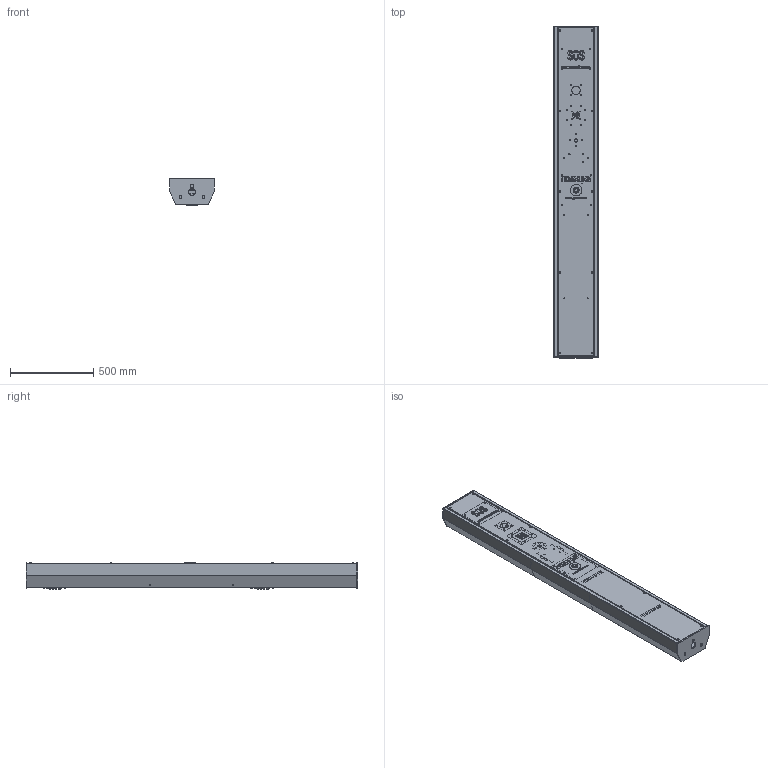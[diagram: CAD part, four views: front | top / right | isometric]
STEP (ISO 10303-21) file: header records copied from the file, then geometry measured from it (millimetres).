
FILE_DESCRIPTION (( 'STEP AP214' ), '1' );
FILE_NAME ('Êîëîííà FSP-WP07-IP.STEP', '2024-11-24T11:12:41', ( '' ), ( '' ), 'SwSTEP 2.0', 'SolidWorks 2024', '' );
FILE_SCHEMA (( 'AUTOMOTIVE_DESIGN' ));
Length unit declared in the file: millimetre
Products named in the file (40): _____ _____________ __________ Sip phone V5.0.STEP; ________ 1.STEP; ______ _______ (_____)_______ _______ - _4.STEP; ______ SVN-200SL20HPOE.STEP; _________ _________.STEP; _______.STEP; _________ ______.STEP; MC_DIN-_____ 280 mm.STEP; Колонна FSP-WP07-IP.STEP; _______ _ 218_1983.STEP; ________ ______.STEP; socket button head screw_iso_ISO 7380 - M6 x 16 - 16N; ______ ______________ GQ30-11E-B-12V 30 __.STEP; ______ _______ (_____)_______ _______ - _6.STEP; ______-2.STEP; ____________ FLH 150 110-250V AC.STEP; _____-1.STEP; ________ 2.STEP; DR-15-15, ____ _______, 15_, 1_,15__.STEP; _______ _____________ _____ _4 _ 20.STEP; JA0925H2B0N-T, __________ 220_, 92_92_25__.STEP; _____.STEP; _____ ________.STEP; _______ _____________ _____ _4 _ 12.STEP; _______ FR 58-8.STEP; ______ _________ ______BSO-3,5M3-08 (______ _____).STEP; ________ ______ __.STEP; MC_DIN-_____ 160 mm.STEP; ______.STEP; ______-3.STEP; _______ _____________ _____ _5 _ 20.STEP; _____ __.STEP; _____ _ ___________.STEP; socket button head screw_iso_ISO 7380 - M4 x 16 - 16N; _______ _____________ _____ _4 _ 38.STEP; _______ __.STEP; Колонна FSP-WP07-IP; _____-0.STEP; _______ _____________ _____ _3 _ 10.STEP; ______ ____.STEP
Assembly tree (133 placements, depth 5):
  Колонна FSP-WP07-IP
    Колонна FSP-WP07-IP.STEP
      _____ __.STEP
        _____.STEP
        _____-0.STEP
        _____-1.STEP
        ______ _______ (_____)_______ _______ - _6.STEP  x10
        ______ _______ (_____)_______ _______ - _4.STEP  x16
        _______ _____________ _____ _4 _ 12.STEP  x2
        ______.STEP  x2
        _____ _ ___________.STEP  x2
      ________ ______ __.STEP
        _______ __.STEP
          _______ _ 218_1983.STEP
          _______ _____________ _____ _4 _ 12.STEP  x8
          _______ _____________ _____ _3 _ 10.STEP  x4
          _______ _____________ _____ _4 _ 20.STEP  x16
          _______ _____________ _____ _4 _ 38.STEP  x4
          ______ _________ ______BSO-3,5M3-08 (______ _____).STEP  x3
          _______ _____________ _____ _5 _ 20.STEP  x2
        ______-2.STEP
        ________ 1.STEP
        ________ 2.STEP
        _________ _________.STEP
        ________ ______.STEP
        _______.STEP
        _____ _____________ __________ Sip phone V5.0.STEP
        _______ FR 58-8.STEP
        ______ SVN-200SL20HPOE.STEP
        _________ ______.STEP
        _____ ________.STEP
        MC_DIN-_____ 160 mm.STEP  x2
        DR-15-15, ____ _______, 15_, 1_,15__.STEP
        ____________ FLH 150 110-250V AC.STEP
        ______-3.STEP
        ______ ______________ GQ30-11E-B-12V 30 __.STEP
      MC_DIN-_____ 280 mm.STEP
      ______ ____.STEP  x2
      JA0925H2B0N-T, __________ 220_, 92_92_25__.STEP  x2
    socket button head screw_iso_ISO 7380 - M6 x 16 - 16N  x10
    socket button head screw_iso_ISO 7380 - M4 x 16 - 16N  x24
Bounding box: 270 x 1996 x 164.2 mm (x, y, z)
Volume: 5145656.7 mm3; surface area: 4554355.9 mm2
Topology: 130 solids, 130 shells, 6547 faces, 16115 edges, 9944 vertices
Faces by surface type: plane 3853, cylinder 1370, bspline 500, torus 450, cone 274, sphere 100
Entity records: 136203 total; most frequent: CARTESIAN_POINT 40637, ORIENTED_EDGE 15066, DIRECTION 13374, EDGE_CURVE 7533, VERTEX_POINT 4764, LINE 4574, VECTOR 4574, AXIS2_PLACEMENT_3D 4400
